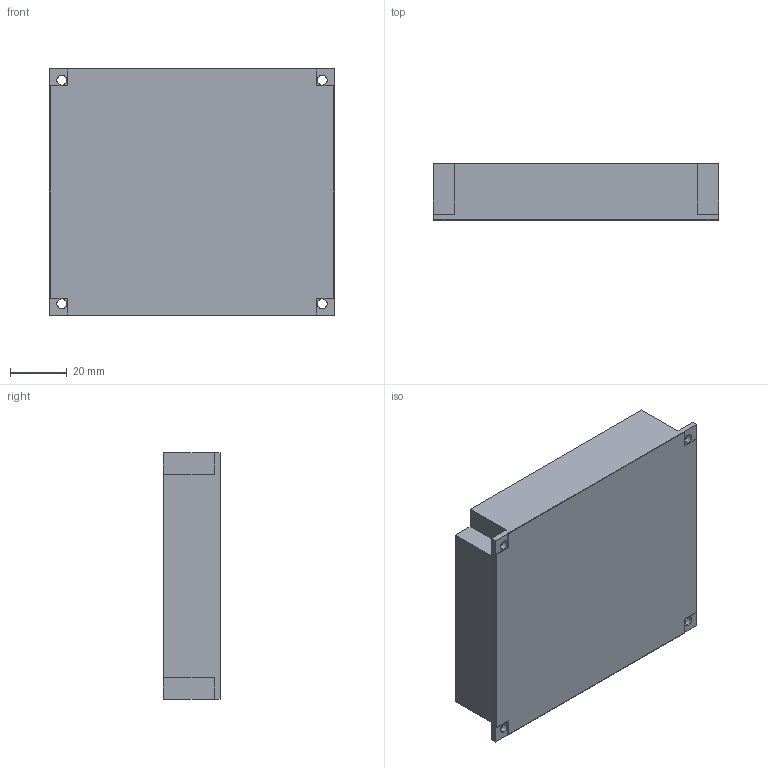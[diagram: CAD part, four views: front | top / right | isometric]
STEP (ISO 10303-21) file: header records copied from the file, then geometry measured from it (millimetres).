
FILE_DESCRIPTION (( 'STEP AP203' ), '1' );
FILE_NAME ('ATS-NVP-3739-C1-R0_FUSED.STEP', '2025-10-29T15:06:31', ( '' ), ( '' ), 'SwSTEP 2.0', 'SolidWorks 2025', '' );
FILE_SCHEMA (( 'CONFIG_CONTROL_DESIGN' ));
Length unit declared in the file: millimetre
Products named in the file (1): ATS-NVP-3739-C1-R0_FUSED
Bounding box: 100.76 x 20.15 x 87 mm (x, y, z)
Volume: 172509.9 mm3; surface area: 42221.7 mm2
Topology: 2 solids, 2 shells, 40 faces, 108 edges, 72 vertices
Faces by surface type: plane 32, cylinder 8
Entity records: 1339 total; most frequent: CARTESIAN_POINT 221, ORIENTED_EDGE 216, DIRECTION 206, EDGE_CURVE 108, VECTOR 92, LINE 92, VERTEX_POINT 72, AXIS2_PLACEMENT_3D 57
